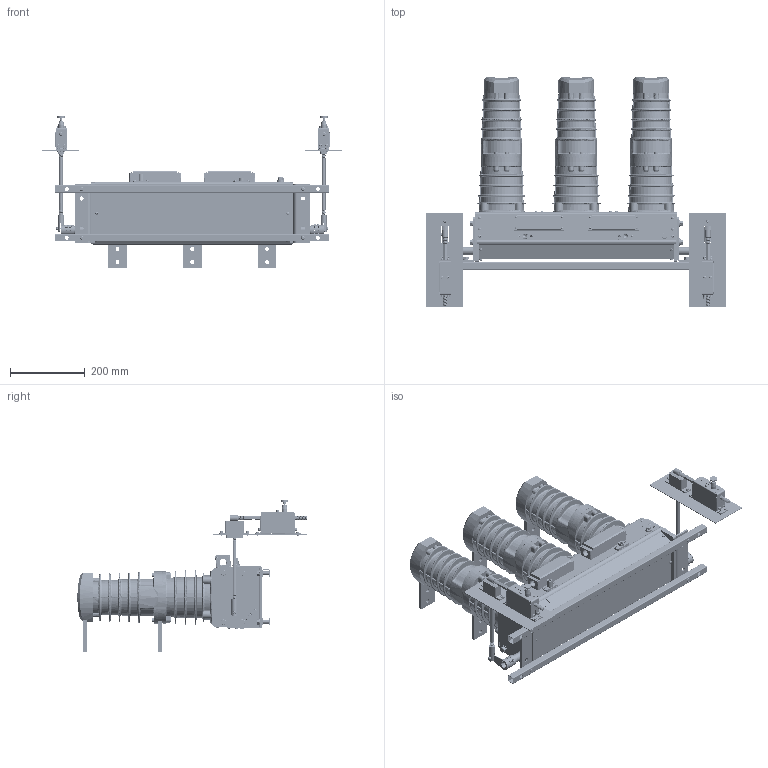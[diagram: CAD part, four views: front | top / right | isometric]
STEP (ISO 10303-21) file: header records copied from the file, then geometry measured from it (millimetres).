
FILE_DESCRIPTION (( 'STEP AP214' ), '1' );
FILE_NAME ('Optimat 舊(200 擤) 帎-03.STEP', '2018-12-24T10:38:17', ( '' ), ( '' ), 'SwSTEP 2.0', 'SolidWorks 2018', '' );
FILE_SCHEMA (( 'AUTOMOTIVE_DESIGN' ));
Length unit declared in the file: millimetre
Products named in the file (129): Øèëüäèê OptiMat BB_1; Êðûøêà_; Ïðóæèíà; Óïëîòíèòåëü 674152.001.018^Êîðïóñ_Optimat ÂÂ(200 ìì); Êðûøêà áîêîâàÿ; 鎗鵻罻_膻緱樍螵膰艜魛蠉; 嵑謺麃; Êðûøêà áîêîâàÿ674152.001.004-2^Êîðïóñ_Optimat ÂÂ(200 ìì); 侳緱鴇_膰艜魛瀖罻懤蹖; 逄闉; 妈眚 󉱮0^暑痫篑_Optimat 侣(200 祆); 婑鳧氀; 鎗鵻罻 674152.001.02.002^扻豵鵨 674152.001.02_扻豵鵨_Optimat 舊(200 擤); Íèæíèé êîíòàêò; 鎗鵻罻; Êðûøêà áîêîâàÿ 674152.001.004^Êîðïóñ_Optimat ÂÂ(200 ìì); 醫贂膻嶱膰艜魛瀖罻懤蹖; Èçîëÿöèÿ ýëåêòðîìàãíèòà; 署赅 疣琥屐郶暑痫篑_Optimat 侣(200 祆); 扱闀罻; 扻豵鵨 674152.001.02.001^扻豵鵨 674152.001.02_扻豵鵨_Optimat 舊(200 擤); Ãèáêèé êîíòàêò; Âàë îòêëþ÷åíèÿ 674152.001.07^Êîðïóñ_Optimat ÂÂ(200 ìì); Êðûøêà; ßêîðü; Ïÿòêà; Êîðïóñ ïîëþñà íèç; Îñíîâàíèå âòóëêè; Óêàçàòåëü 674152.001.07.004^Âàë îòêëþ÷åíèÿ 674152.001.07_Êîðïóñ_Optimat ÂÂ(200 ìì); 扻豵鵨; 暑痫篑 尻蝠铎嚆龛蜞; 欭殣玁獬扻豵鵨_Optimat 舊(200 擤); ﾒ聰; Optimat 舊(200 擤) 帎-03; 鎗鵻罻_; 鎗鵻罻 蹖欑蜬; Âàë îòêëþ÷åíèÿ^Âàë îòêëþ÷åíèÿ 674152.001.07_Êîðïóñ_Optimat ÂÂ(200 ìì); 署赅 镱膻襦; Íàïðàâëÿþùàÿ âòóëêà; Øóðóï 4.2õ9,5^Êîðïóñ_Optimat ÂÂ(200 ìì)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
Assembly tree (363 placements, depth 4):
  Optimat 舊(200 擤) 帎-03
    Êîðïóñ^Optimat ÂÂ(200 ìì)_„«ï £ ¡ à¨â­®£® ç¥àâ¥¦ 
      扻豵鵨 674152.001.02^扻豵鵨_Optimat 舊(200 擤)
        扻豵鵨 674152.001.02.001^扻豵鵨 674152.001.02_扻豵鵨_Optimat 舊(200 擤)
        鎗鵻罻 674152.001.02.002^扻豵鵨 674152.001.02_扻豵鵨_Optimat 舊(200 擤)
      3.8 Âàë ñèíõðîíèçàöèè 674152.001.03^Êîðïóñ_Optimat ÂÂ(200 ìì)
        3.8 Âàë ñèíõðîíèçàöèè  674152.001.03.001^3.8 Âàë ñèíõðîíèçàöèè 674152.001.03_Êîðïóñ_Optimat ÂÂ(200 ìì)
        Âòóëêêà 674152.001.03.003^3.8 Âàë ñèíõðîíèçàöèè 674152.001.03_Êîðïóñ_Optimat ÂÂ(200 ìì)  x2
      Ïëàòà 674152.001.05^Êîðïóñ_Optimat ÂÂ(200 ìì)
        Ïëàòà 674152.001.05.001^Ïëàòà 674152.001.05_Êîðïóñ_Optimat ÂÂ(200 ìì)
        Ðàçúåì prt19^Ïëàòà 674152.001.05_Êîðïóñ_Optimat ÂÂ(200 ìì)  x14
        Ðàçúåì prt20^Ïëàòà 674152.001.05_Êîðïóñ_Optimat ÂÂ(200 ìì)
      Ïëàòà 674152.001.06^Êîðïóñ_Optimat ÂÂ(200 ìì)
        Ïëàòà 674152.001.06.001^Ïëàòà 674152.001.06_Êîðïóñ_Optimat ÂÂ(200 ìì)
        Ðàçúåì prt19^Ïëàòà 674152.001.06_Êîðïóñ_Optimat ÂÂ(200 ìì)  x14
        Ðàçúåì prt20^Ïëàòà 674152.001.06_Êîðïóñ_Optimat ÂÂ(200 ìì)
      Âàë îòêëþ÷åíèÿ 674152.001.07^Êîðïóñ_Optimat ÂÂ(200 ìì)
        Âàë îòêëþ÷åíèÿ^Âàë îòêëþ÷åíèÿ 674152.001.07_Êîðïóñ_Optimat ÂÂ(200 ìì)
        Óêàçàòåëü 674152.001.07.004^Âàë îòêëþ÷åíèÿ 674152.001.07_Êîðïóñ_Optimat ÂÂ(200 ìì)  x2
      Êðûøêà áîêîâàÿ 674152.001.004^Êîðïóñ_Optimat ÂÂ(200 ìì)
      Êðûøêà áîêîâàÿ674152.001.004-2^Êîðïóñ_Optimat ÂÂ(200 ìì)
      Ãàéêà çàêëàäíàÿ Ì10^Êîðïóñ_Optimat ÂÂ(200 ìì)  x7
      ÐèÌ ÂÂ-10-prt29^Êîðïóñ_Optimat ÂÂ(200 ìì)
      Øóðóï 4.2õ13^Êîðïóñ_Optimat ÂÂ(200 ìì)  x18
      Îñíîâàíèå ðàçúåìà^Êîðïóñ_Optimat ÂÂ(200 ìì)  x2
      妈眚 󊅙2^暑痫篑_Optimat 侣(200 祆)  x12
      Íàïðàâëÿþùàÿ 674152.001.005^Êîðïóñ_Optimat ÂÂ(200 ìì)
      Íàïðàâëÿþùàÿ 674152.001.005-3^Êîðïóñ_Optimat ÂÂ(200 ìì)
      Òîëêàòåëü ìåõ_áëîêèðîâêè^Êîðïóñ_Optimat ÂÂ(200 ìì)
      Òîëêàòåëü ðó÷íîãî îòêëþ÷åíèÿ^Êîðïóñ_Optimat ÂÂ(200 ìì)
      栴鍕趑扻豵鵨_Optimat 舊(200 擤)  x2
      Øóðóï 4,2õ16^Êîðïóñ_Optimat ÂÂ(200 ìì)  x4
      Øóðóï 4.2õ9,5^Êîðïóñ_Optimat ÂÂ(200 ìì)  x4
      欭殣玁獬扻豵鵨_Optimat 舊(200 擤)
      署赅 疣琥屐郶暑痫篑_Optimat 侣(200 祆)  x2
      妈眚 󉱮0^暑痫篑_Optimat 侣(200 祆)  x8
      Óïëîòíèòåëü 674152.001.018^Êîðïóñ_Optimat ÂÂ(200 ìì)  x2
      扻豵鵨 674152.001.007^扻豵鵨_Optimat 舊(200 擤)
      Øàéáà 10 ÃÎÑÒ 11371^Êîðïóñ_Optimat ÂÂ(200 ìì)  x10
      Øàéáà ïðóæèííàÿ 10 ÃÎÑÒ6402 ^Êîðïóñ_Optimat ÂÂ(200 ìì)  x9
      Áîëò Ì10õ30^Êîðïóñ_Optimat ÂÂ(200 ìì)  x8
      Áîëò Ì10õ20^Êîðïóñ_Optimat ÂÂ(200 ìì)
      琼嚓 ^暑痫篑_Optimat 侣(200 祆)
      Çíàê çàçåìëåíèÿ^Êîðïóñ_Optimat ÂÂ(200 ìì)
      諘蜱齁罻^扻豵鵨_Optimat 舊(200 擤)
    674152.001.002 Optimat 舊-10  x3
    Ïîëþñ  x3
      Êîðïóñ ïîëþñà íèç
        Êîðïóñ ïîëþñà íèç
        鎗鵻罻_  x8
      Íèæíèé êîíòàêò
        Ãèáêèé êîíòàêò
        Íèæíèé êîíòàêò
        鎗鵻罻_膻緱樍螵膰艜魛蠉
      Âåðõíèé êîíòàêò
      prt10^Ïîëþñ
      prt11^Ïîëþñ
      扻豵鵨 瀁錌黟_瞂贂
        扻豵鵨 瀁錌黟_瞂贂
        Âòóëêà_âåðõíÿÿ  x4
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Bounding box: 802.6 x 613.09 x 404.74 mm (x, y, z)
Volume: 9592889.8 mm3; surface area: 4672116.6 mm2
Topology: 525 solids, 582 shells, 38337 faces, 101650 edges, 66247 vertices
Faces by surface type: plane 20047, cylinder 10060, bspline 6049, cone 1045, torus 908, sphere 228
Full cylindrical faces by diameter (mm): 1.199 x16, 1.4 x118, 1.402 x56, 1.499 x2, 1.6 x43, 2 x118, 2.459 x8, 3 x46, 3.2 x8, 3.24 x9, 3.242 x11, 3.3 x40, 3.4 x28, 3.5 x47, 3.6 x34, 3.998 x4, 4 x139, 4.2 x48, 4.3 x60, 4.917 x36, 5 x34, 5.2 x28, 5.5 x8, 6 x34, 6.4 x12, 6.5 x24, 6.6 x18, 6.647 x36, 7 x14, 7.2 x12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
Entity records: 714253 total; most frequent: CARTESIAN_POINT 343664, ORIENTED_EDGE 85285, DIRECTION 49285, EDGE_CURVE 42753, VERTEX_POINT 28694, B_SPLINE_CURVE_WITH_KNOTS 25715, EDGE_LOOP 18769, AXIS2_PLACEMENT_3D 18184
